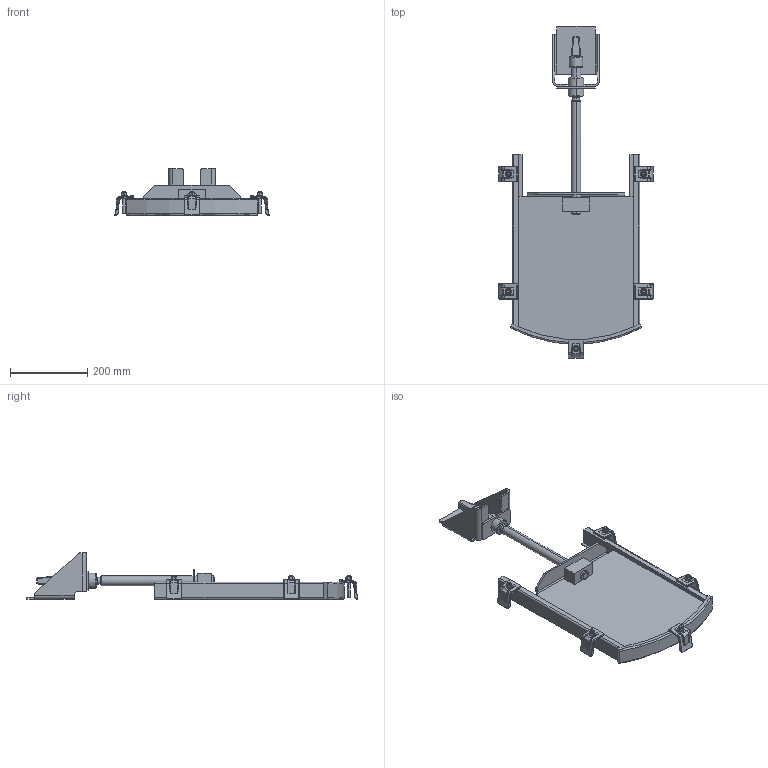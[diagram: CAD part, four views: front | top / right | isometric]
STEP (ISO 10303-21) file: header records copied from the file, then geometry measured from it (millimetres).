
FILE_DESCRIPTION (( 'STEP AP214' ), '1' );
FILE_NAME ('LW 250 gerad klemmen.STEP', '2022-05-18T13:53:36', ( '' ), ( '' ), 'SwSTEP 2.0', 'SolidWorks 2021', '' );
FILE_SCHEMA (( 'AUTOMOTIVE_DESIGN' ));
Length unit declared in the file: millimetre
Products named in the file (1): LW 250 gerad klemmen
Bounding box: 399.57 x 860.79 x 121 mm (x, y, z)
Volume: 2272926.9 mm3; surface area: 633048.5 mm2
Topology: 1 solids, 1 shells, 882 faces, 2049 edges, 1139 vertices
Faces by surface type: cylinder 339, plane 264, cone 76, sphere 73, torus 68, bspline 62
Entity records: 36569 total; most frequent: CARTESIAN_POINT 7739, DIRECTION 4163, ORIENTED_EDGE 3950, EDGE_CURVE 1975, AXIS2_PLACEMENT_3D 1659, VERTEX_POINT 1129, EDGE_LOOP 926, ADVANCED_FACE 882
